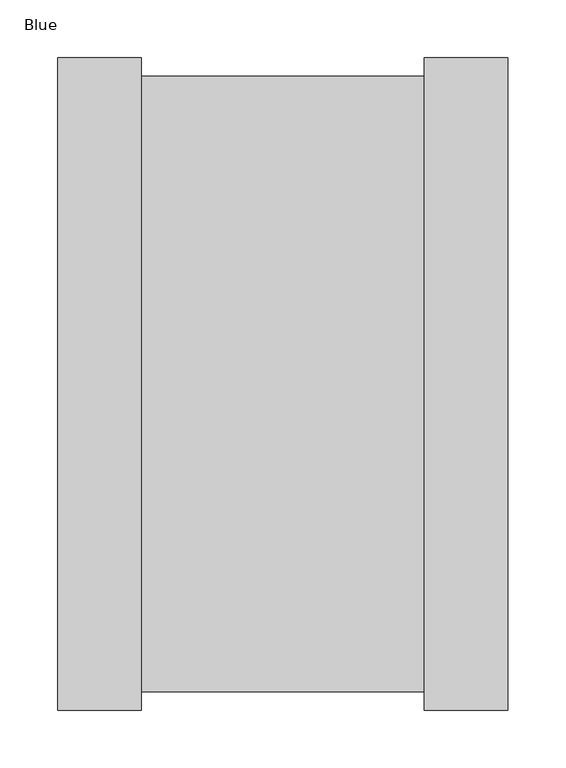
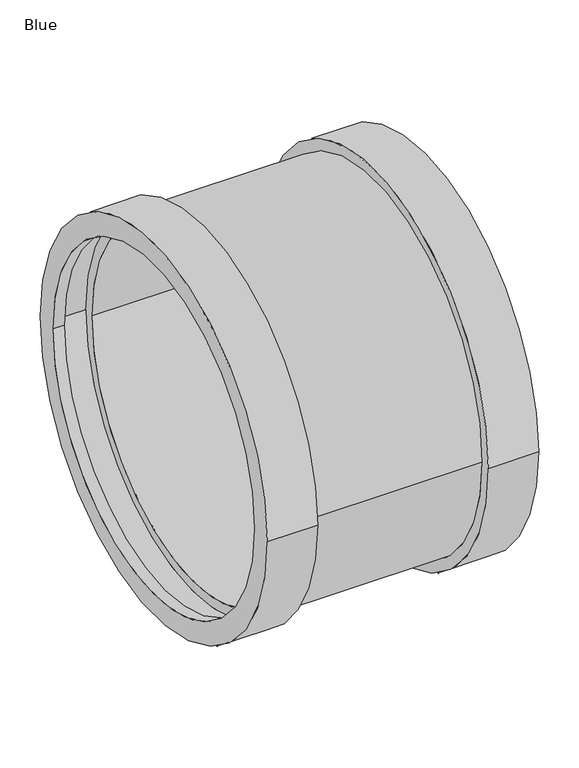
"""IFC4 building model written with IfcOpenShell, lengths in millimetres: pipe fitting geometry, AWADUKT PP Union USM : Blue."""

from ifc_helpers import new_model, si_unit, frame, origin, place, context, project, spatial, polyline, circle_curve, source, transform, mapped, element, save
from ifc_brep_helpers import plane_surface, cylinder_surface, revolved_surface, advanced_brep


def blue_a7021721(model_context):
    return source(origin(), model_context, "Body", "AdvancedBrep", [
        advanced_brep(
        [(-138.5, 250.0, 0.0), (-138.5, -250.0, 0.0), (138.5, -250.0, 0.0), (138.5, 250.0, 0.0), (-178.5, 266.0, 0.0), (-178.5, -266.0, 0.0), (-138.5, -266.0, 0.0), (-138.5, 266.0, 0.0), (-194.5, 250.0, 0.0), (-194.5, -250.0, 0.0), (-178.5, -250.0, 0.0), (-178.5, 250.0, 0.0), (-122.5, 282.0, 0.0), (-122.5, -282.0, 0.0), (-194.5, -282.0, 0.0), (-194.5, 282.0, 0.0), (122.5, 266.0, 0.0), (122.5, -266.0, 0.0), (-122.5, -266.0, 0.0), (-122.5, 266.0, 0.0), (194.5, 282.0, 0.0), (194.5, -282.0, 0.0), (122.5, -282.0, 0.0), (122.5, 282.0, 0.0), (178.5, 250.0, 0.0), (178.5, -250.0, 0.0), (194.5, -250.0, 0.0), (194.5, 250.0, 0.0), (138.5, 266.0, 0.0), (138.5, -266.0, 0.0), (178.5, -266.0, 0.0), (178.5, 266.0, 0.0)],
        [
            (0, 1, circle_curve(frame((-138.5, 0.0, 0.0), z_axis=(-1.0, 0.0, 0.0), x_axis=(0.0, -1.0, 0.0)), 250.0)),
            (1, 2),
            (2, 3, circle_curve(frame((138.5, 0.0, 0.0), z_axis=(1.0, 0.0, 0.0), x_axis=(0.0, -1.0, 0.0)), 250.0)),
            (3, 0),
            (4, 5, circle_curve(frame((-178.5, 0.0, 0.0), z_axis=(-1.0, 0.0, 0.0), x_axis=(0.0, -1.0, 0.0)), 266.0)),
            (5, 6),
            (6, 7, circle_curve(frame((-138.5, 0.0, 0.0), z_axis=(1.0, 0.0, 0.0), x_axis=(0.0, -1.0, 0.0)), 266.0)),
            (7, 4),
            (8, 9, circle_curve(frame((-194.5, 0.0, 0.0), z_axis=(-1.0, 0.0, 0.0), x_axis=(0.0, -1.0, 0.0)), 250.0)),
            (9, 10),
            (10, 11, circle_curve(frame((-178.5, 0.0, 0.0), z_axis=(1.0, 0.0, 0.0), x_axis=(0.0, -1.0, 0.0)), 250.0)),
            (11, 8),
            (12, 13, circle_curve(frame((-122.5, 0.0, 0.0), z_axis=(-1.0, 0.0, 0.0), x_axis=(0.0, -1.0, 0.0)), 282.0)),
            (13, 14),
            (14, 15, circle_curve(frame((-194.5, 0.0, 0.0), z_axis=(1.0, 0.0, 0.0), x_axis=(0.0, -1.0, 0.0)), 282.0)),
            (15, 12),
            (16, 17, circle_curve(frame((122.5, 0.0, 0.0), z_axis=(-1.0, 0.0, 0.0), x_axis=(0.0, -1.0, 0.0)), 266.0)),
            (17, 18),
            (18, 19, circle_curve(frame((-122.5, 0.0, 0.0), z_axis=(1.0, 0.0, 0.0), x_axis=(0.0, -1.0, 0.0)), 266.0)),
            (19, 16),
            (20, 21, circle_curve(frame((194.5, 0.0, 0.0), z_axis=(-1.0, 0.0, 0.0), x_axis=(0.0, -1.0, 0.0)), 282.0)),
            (21, 22),
            (22, 23, circle_curve(frame((122.5, 0.0, 0.0), z_axis=(1.0, 0.0, 0.0), x_axis=(0.0, -1.0, 0.0)), 282.0)),
            (23, 20),
            (24, 25, circle_curve(frame((178.5, 0.0, 0.0), z_axis=(-1.0, 0.0, 0.0), x_axis=(0.0, -1.0, 0.0)), 250.0)),
            (25, 26),
            (26, 27, circle_curve(frame((194.5, 0.0, 0.0), z_axis=(1.0, 0.0, 0.0), x_axis=(0.0, -1.0, 0.0)), 250.0)),
            (27, 24),
            (28, 29, circle_curve(frame((138.5, 0.0, 0.0), z_axis=(-1.0, 0.0, 0.0), x_axis=(0.0, -1.0, 0.0)), 266.0)),
            (29, 30),
            (30, 31, circle_curve(frame((178.5, 0.0, 0.0), z_axis=(1.0, 0.0, 0.0), x_axis=(0.0, -1.0, 0.0)), 266.0)),
            (31, 28),
            (1, 0, circle_curve(frame((-138.5, 0.0, 0.0), z_axis=(-1.0, 0.0, 0.0), x_axis=(0.0, 1.0, 0.0)), 250.0)),
            (3, 2, circle_curve(frame((138.5, 0.0, 0.0), z_axis=(1.0, 0.0, 0.0), x_axis=(0.0, 1.0, 0.0)), 250.0)),
            (6, 7, circle_curve(frame((-138.5, 0.0, 0.0), z_axis=(-1.0, 0.0, 0.0), x_axis=(0.0, 1.0, 0.0)), 266.0)),
            (5, 4, circle_curve(frame((-178.5, 0.0, 0.0), z_axis=(-1.0, 0.0, 0.0), x_axis=(0.0, 1.0, 0.0)), 266.0)),
            (10, 11, circle_curve(frame((-178.5, 0.0, 0.0), z_axis=(-1.0, 0.0, 0.0), x_axis=(0.0, 1.0, 0.0)), 250.0)),
            (9, 8, circle_curve(frame((-194.5, 0.0, 0.0), z_axis=(-1.0, 0.0, 0.0), x_axis=(0.0, 1.0, 0.0)), 250.0)),
            (14, 15, circle_curve(frame((-194.5, 0.0, 0.0), z_axis=(-1.0, 0.0, 0.0), x_axis=(0.0, 1.0, 0.0)), 282.0)),
            (13, 12, circle_curve(frame((-122.5, 0.0, 0.0), z_axis=(-1.0, 0.0, 0.0), x_axis=(0.0, 1.0, 0.0)), 282.0)),
            (18, 19, circle_curve(frame((-122.5, 0.0, 0.0), z_axis=(-1.0, 0.0, 0.0), x_axis=(0.0, 1.0, 0.0)), 266.0)),
            (17, 16, circle_curve(frame((122.5, 0.0, 0.0), z_axis=(-1.0, 0.0, 0.0), x_axis=(0.0, 1.0, 0.0)), 266.0)),
            (22, 23, circle_curve(frame((122.5, 0.0, 0.0), z_axis=(-1.0, 0.0, 0.0), x_axis=(0.0, 1.0, 0.0)), 282.0)),
            (21, 20, circle_curve(frame((194.5, 0.0, 0.0), z_axis=(-1.0, 0.0, 0.0), x_axis=(0.0, 1.0, 0.0)), 282.0)),
            (26, 27, circle_curve(frame((194.5, 0.0, 0.0), z_axis=(-1.0, 0.0, 0.0), x_axis=(0.0, 1.0, 0.0)), 250.0)),
            (25, 24, circle_curve(frame((178.5, 0.0, 0.0), z_axis=(-1.0, 0.0, 0.0), x_axis=(0.0, 1.0, 0.0)), 250.0)),
            (30, 31, circle_curve(frame((178.5, 0.0, 0.0), z_axis=(-1.0, 0.0, 0.0), x_axis=(0.0, 1.0, 0.0)), 266.0)),
            (29, 28, circle_curve(frame((138.5, 0.0, 0.0), z_axis=(-1.0, 0.0, 0.0), x_axis=(0.0, 1.0, 0.0)), 266.0)),
        ],
        [
            revolved_surface(polyline([(138.5, -250.0, 0.0), (-138.5, -250.0, 0.0)]), (0.0, 0.0, 0.0), (1.0, 0.0, 0.0)),
            revolved_surface(polyline([(-138.5, -266.0, 0.0), (-178.5, -266.0, 0.0)]), (0.0, 0.0, 0.0), (1.0, 0.0, 0.0)),
            revolved_surface(polyline([(-178.5, -250.0, 0.0), (-194.5, -250.0, 0.0)]), (0.0, 0.0, 0.0), (1.0, 0.0, 0.0)),
            cylinder_surface(frame((0.0, 0.0, 0.0), z_axis=(1.0, 0.0, 0.0), x_axis=(0.0, -1.0, 0.0)), 282.0),
            cylinder_surface(frame((0.0, 0.0, 0.0), z_axis=(1.0, 0.0, 0.0), x_axis=(0.0, -1.0, 0.0)), 266.0),
            revolved_surface(polyline([(194.5, -250.0, 0.0), (178.5, -250.0, 0.0)]), (0.0, 0.0, 0.0), (1.0, 0.0, 0.0)),
            revolved_surface(polyline([(178.5, -266.0, 0.0), (138.5, -266.0, 0.0)]), (0.0, 0.0, 0.0), (1.0, 0.0, 0.0)),
            revolved_surface(polyline([(138.5, 250.0, 0.0), (-138.5, 250.0, 0.0)]), (0.0, 0.0, 0.0), (1.0, 0.0, 0.0)),
            plane_surface(frame((-138.5, 0.0, 0.0), z_axis=(-1.0, 0.0, 0.0), x_axis=(0.0, 1.0, 0.0))),
            revolved_surface(polyline([(-138.5, 266.0, 0.0), (-178.5, 266.0, 0.0)]), (0.0, 0.0, 0.0), (1.0, 0.0, 0.0)),
            plane_surface(frame((-178.5, 0.0, 0.0), z_axis=(1.0, 0.0, 0.0), x_axis=(0.0, 1.0, 0.0))),
            revolved_surface(polyline([(-178.5, 250.0, 0.0), (-194.5, 250.0, 0.0)]), (0.0, 0.0, 0.0), (1.0, 0.0, 0.0)),
            plane_surface(frame((-194.5, 0.0, 0.0), z_axis=(-1.0, 0.0, 0.0), x_axis=(0.0, 1.0, 0.0))),
            cylinder_surface(frame((0.0, 0.0, 0.0), z_axis=(1.0, 0.0, 0.0), x_axis=(0.0, 1.0, 0.0)), 282.0),
            plane_surface(frame((-122.5, 0.0, 0.0), z_axis=(1.0, 0.0, 0.0), x_axis=(0.0, 1.0, 0.0))),
            cylinder_surface(frame((0.0, 0.0, 0.0), z_axis=(1.0, 0.0, 0.0), x_axis=(0.0, 1.0, 0.0)), 266.0),
            plane_surface(frame((122.5, 0.0, 0.0), z_axis=(-1.0, 0.0, 0.0), x_axis=(0.0, 1.0, 0.0))),
            plane_surface(frame((194.5, 0.0, 0.0), z_axis=(1.0, 0.0, 0.0), x_axis=(0.0, 1.0, 0.0))),
            revolved_surface(polyline([(194.5, 250.0, 0.0), (178.5, 250.0, 0.0)]), (0.0, 0.0, 0.0), (1.0, 0.0, 0.0)),
            plane_surface(frame((178.5, 0.0, 0.0), z_axis=(-1.0, 0.0, 0.0), x_axis=(0.0, 1.0, 0.0))),
            revolved_surface(polyline([(178.5, 266.0, 0.0), (138.5, 266.0, 0.0)]), (0.0, 0.0, 0.0), (1.0, 0.0, 0.0)),
            plane_surface(frame((138.5, 0.0, 0.0), z_axis=(1.0, 0.0, 0.0), x_axis=(0.0, 1.0, 0.0))),
        ],
        [
            (0, [[1, 2, 3, 4]]),
            (1, [[5, 6, 7, 8]]),
            (2, [[9, 10, 11, 12]]),
            (3, [[13, 14, 15, 16]]),
            (4, [[17, 18, 19, 20]]),
            (3, [[21, 22, 23, 24]]),
            (5, [[25, 26, 27, 28]]),
            (6, [[29, 30, 31, 32]]),
            (7, [[33, -4, 34, -2]]),
            (8, [[35, -7], [-33, -1]]),
            (9, [[36, -8, -35, -6]]),
            (10, [[-36, -5], [37, -11]]),
            (11, [[38, -12, -37, -10]]),
            (12, [[39, -15], [-38, -9]]),
            (13, [[40, -16, -39, -14]]),
            (14, [[-40, -13], [41, -19]]),
            (15, [[42, -20, -41, -18]]),
            (16, [[43, -23], [-42, -17]]),
            (13, [[44, -24, -43, -22]]),
            (17, [[-44, -21], [45, -27]]),
            (18, [[46, -28, -45, -26]]),
            (19, [[47, -31], [-46, -25]]),
            (20, [[48, -32, -47, -30]]),
            (21, [[-48, -29], [-34, -3]]),
        ],
    ),
    ])


if __name__ == "__main__":
    model = new_model("IFC4")
    model_context = context("Model", 3, world=origin())
    ifc_project = project(units=[si_unit("LENGTHUNIT", "METRE", prefix="MILLI")], contexts=[model_context])
    site = spatial("IfcSite", under=ifc_project)
    building = spatial("IfcBuilding", under=site)
    placement = place(None, origin())
    blue_shape = blue_a7021721(model_context)
    element("IfcPipeFitting", 1, ObjectType="AWADUKT PP Union USM : Blue", at=placement, inside=building, context=model_context, shape_type="MappedRepresentation", body=[
        mapped(blue_shape, transform((0.0, 0.0, 0.0), x_axis=(1.0, 0.0, 0.0), y_axis=(0.0, 1.0, 0.0), z_axis=(0.0, 0.0, 1.0))),
    ])
    save(model, "model.ifc")
